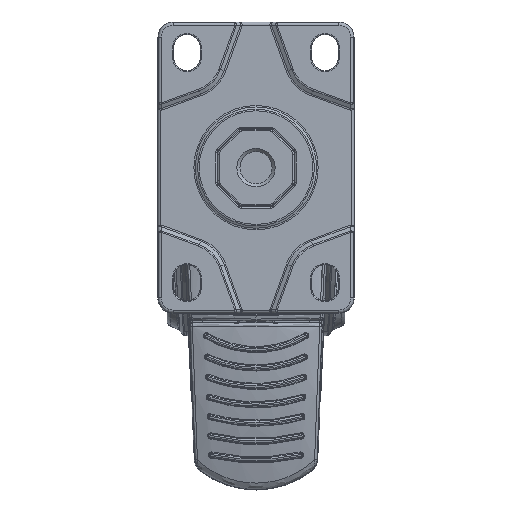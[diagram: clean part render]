
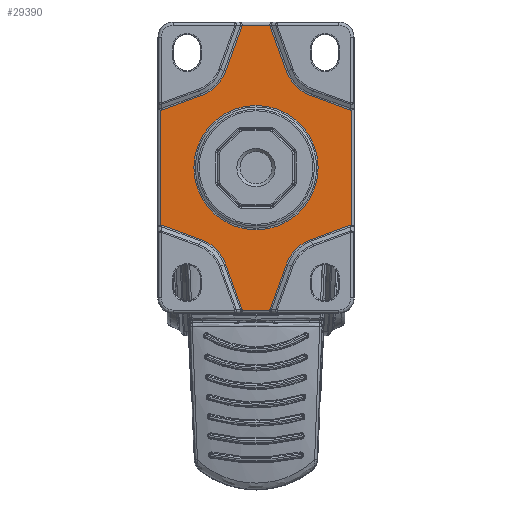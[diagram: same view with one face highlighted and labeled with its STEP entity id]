
A CAD part, top view. The second image highlights one B-rep face of the part: STEP entity #29390.
In plain terms, the highlighted planar face has unit normal (0, 0, 1).
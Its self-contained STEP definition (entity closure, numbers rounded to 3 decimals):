
#501=FACE_BOUND('',#6565,.T.);
#1093=LINE('',#70023,#2324);
#1094=LINE('',#70027,#2325);
#1095=LINE('',#70031,#2326);
#1096=LINE('',#70035,#2327);
#1097=LINE('',#70039,#2328);
#1098=LINE('',#70043,#2329);
#1099=LINE('',#70047,#2330);
#1100=LINE('',#70051,#2331);
#1101=LINE('',#70055,#2332);
#1102=LINE('',#70059,#2333);
#1103=LINE('',#70063,#2334);
#1104=LINE('',#70067,#2335);
#2324=VECTOR('',#35692,10.);
#2325=VECTOR('',#35695,10.);
#2326=VECTOR('',#35698,10.);
#2327=VECTOR('',#35701,10.);
#2328=VECTOR('',#35704,10.);
#2329=VECTOR('',#35707,10.);
#2330=VECTOR('',#35710,10.);
#2331=VECTOR('',#35713,10.);
#2332=VECTOR('',#35716,10.);
#2333=VECTOR('',#35719,10.);
#2334=VECTOR('',#35722,10.);
#2335=VECTOR('',#35725,10.);
#3158=PLANE('',#31592);
#3614=ELLIPSE('',#31593,4.217,2.);
#3615=ELLIPSE('',#31595,4.217,2.);
#3616=ELLIPSE('',#31596,4.217,2.);
#3617=ELLIPSE('',#31598,4.217,2.);
#3618=ELLIPSE('',#31599,4.217,2.);
#3619=ELLIPSE('',#31601,4.217,2.);
#3620=ELLIPSE('',#31602,4.217,2.);
#3621=ELLIPSE('',#31604,4.217,2.);
#4673=FACE_OUTER_BOUND('',#6564,.T.);
#6564=EDGE_LOOP('',(#22741,#22742,#22743,#22744,#22745,#22746,#22747,#22748,
#22749,#22750,#22751,#22752,#22753,#22754,#22755,#22756,#22757,#22758,#22759,
#22760,#22761,#22762,#22763,#22764));
#6565=EDGE_LOOP('',(#22765));
#8239=CIRCLE('',#31591,20.268);
#8240=CIRCLE('',#31594,13.382);
#8241=CIRCLE('',#31597,13.382);
#8242=CIRCLE('',#31600,13.382);
#8243=CIRCLE('',#31603,13.382);
#12277=VERTEX_POINT('',#70017);
#12278=VERTEX_POINT('',#70021);
#12279=VERTEX_POINT('',#70022);
#12280=VERTEX_POINT('',#70024);
#12281=VERTEX_POINT('',#70026);
#12282=VERTEX_POINT('',#70028);
#12283=VERTEX_POINT('',#70030);
#12284=VERTEX_POINT('',#70032);
#12285=VERTEX_POINT('',#70034);
#12286=VERTEX_POINT('',#70036);
#12287=VERTEX_POINT('',#70038);
#12288=VERTEX_POINT('',#70040);
#12289=VERTEX_POINT('',#70042);
#12290=VERTEX_POINT('',#70044);
#12291=VERTEX_POINT('',#70046);
#12292=VERTEX_POINT('',#70048);
#12293=VERTEX_POINT('',#70050);
#12294=VERTEX_POINT('',#70052);
#12295=VERTEX_POINT('',#70054);
#12296=VERTEX_POINT('',#70056);
#12297=VERTEX_POINT('',#70058);
#12298=VERTEX_POINT('',#70060);
#12299=VERTEX_POINT('',#70062);
#12300=VERTEX_POINT('',#70064);
#12301=VERTEX_POINT('',#70066);
#15990=EDGE_CURVE('',#12277,#12277,#8239,.T.);
#15991=EDGE_CURVE('',#12278,#12279,#1093,.T.);
#15992=EDGE_CURVE('',#12280,#12278,#3614,.T.);
#15993=EDGE_CURVE('',#12281,#12280,#1094,.T.);
#15994=EDGE_CURVE('',#12282,#12281,#8240,.T.);
#15995=EDGE_CURVE('',#12283,#12282,#1095,.T.);
#15996=EDGE_CURVE('',#12284,#12283,#3615,.T.);
#15997=EDGE_CURVE('',#12285,#12284,#1096,.T.);
#15998=EDGE_CURVE('',#12286,#12285,#3616,.T.);
#15999=EDGE_CURVE('',#12287,#12286,#1097,.T.);
#16000=EDGE_CURVE('',#12288,#12287,#8241,.T.);
#16001=EDGE_CURVE('',#12289,#12288,#1098,.T.);
#16002=EDGE_CURVE('',#12290,#12289,#3617,.T.);
#16003=EDGE_CURVE('',#12291,#12290,#1099,.T.);
#16004=EDGE_CURVE('',#12291,#12292,#3618,.T.);
#16005=EDGE_CURVE('',#12292,#12293,#1100,.T.);
#16006=EDGE_CURVE('',#12293,#12294,#8242,.T.);
#16007=EDGE_CURVE('',#12294,#12295,#1101,.T.);
#16008=EDGE_CURVE('',#12295,#12296,#3619,.T.);
#16009=EDGE_CURVE('',#12296,#12297,#1102,.T.);
#16010=EDGE_CURVE('',#12297,#12298,#3620,.T.);
#16011=EDGE_CURVE('',#12298,#12299,#1103,.T.);
#16012=EDGE_CURVE('',#12299,#12300,#8243,.T.);
#16013=EDGE_CURVE('',#12300,#12301,#1104,.T.);
#16014=EDGE_CURVE('',#12301,#12279,#3621,.T.);
#22741=ORIENTED_EDGE('',*,*,#15991,.F.);
#22742=ORIENTED_EDGE('',*,*,#15992,.F.);
#22743=ORIENTED_EDGE('',*,*,#15993,.F.);
#22744=ORIENTED_EDGE('',*,*,#15994,.F.);
#22745=ORIENTED_EDGE('',*,*,#15995,.F.);
#22746=ORIENTED_EDGE('',*,*,#15996,.F.);
#22747=ORIENTED_EDGE('',*,*,#15997,.F.);
#22748=ORIENTED_EDGE('',*,*,#15998,.F.);
#22749=ORIENTED_EDGE('',*,*,#15999,.F.);
#22750=ORIENTED_EDGE('',*,*,#16000,.F.);
#22751=ORIENTED_EDGE('',*,*,#16001,.F.);
#22752=ORIENTED_EDGE('',*,*,#16002,.F.);
#22753=ORIENTED_EDGE('',*,*,#16003,.F.);
#22754=ORIENTED_EDGE('',*,*,#16004,.T.);
#22755=ORIENTED_EDGE('',*,*,#16005,.T.);
#22756=ORIENTED_EDGE('',*,*,#16006,.T.);
#22757=ORIENTED_EDGE('',*,*,#16007,.T.);
#22758=ORIENTED_EDGE('',*,*,#16008,.T.);
#22759=ORIENTED_EDGE('',*,*,#16009,.T.);
#22760=ORIENTED_EDGE('',*,*,#16010,.T.);
#22761=ORIENTED_EDGE('',*,*,#16011,.T.);
#22762=ORIENTED_EDGE('',*,*,#16012,.T.);
#22763=ORIENTED_EDGE('',*,*,#16013,.T.);
#22764=ORIENTED_EDGE('',*,*,#16014,.T.);
#22765=ORIENTED_EDGE('',*,*,#15990,.F.);
#29390=ADVANCED_FACE('',(#4673,#501),#3158,.F.);
#31591=AXIS2_PLACEMENT_3D('',#70019,#35688,#35689);
#31592=AXIS2_PLACEMENT_3D('',#70020,#35690,#35691);
#31593=AXIS2_PLACEMENT_3D('',#70025,#35693,#35694);
#31594=AXIS2_PLACEMENT_3D('',#70029,#35696,#35697);
#31595=AXIS2_PLACEMENT_3D('',#70033,#35699,#35700);
#31596=AXIS2_PLACEMENT_3D('',#70037,#35702,#35703);
#31597=AXIS2_PLACEMENT_3D('',#70041,#35705,#35706);
#31598=AXIS2_PLACEMENT_3D('',#70045,#35708,#35709);
#31599=AXIS2_PLACEMENT_3D('',#70049,#35711,#35712);
#31600=AXIS2_PLACEMENT_3D('',#70053,#35714,#35715);
#31601=AXIS2_PLACEMENT_3D('',#70057,#35717,#35718);
#31602=AXIS2_PLACEMENT_3D('',#70061,#35720,#35721);
#31603=AXIS2_PLACEMENT_3D('',#70065,#35723,#35724);
#31604=AXIS2_PLACEMENT_3D('',#70068,#35726,#35727);
#35688=DIRECTION('center_axis',(0.,0.,1.));
#35689=DIRECTION('ref_axis',(0.,1.,0.));
#35690=DIRECTION('center_axis',(0.,0.,-1.));
#35691=DIRECTION('ref_axis',(0.,1.,0.));
#35692=DIRECTION('',(-1.,0.,0.));
#35693=DIRECTION('center_axis',(0.,0.,1.));
#35694=DIRECTION('ref_axis',(-1.,-0.019,0.));
#35695=DIRECTION('',(-0.342,-0.94,0.));
#35696=DIRECTION('center_axis',(0.,0.,1.));
#35697=DIRECTION('ref_axis',(-0.707,0.707,0.));
#35698=DIRECTION('',(-0.94,-0.342,0.));
#35699=DIRECTION('center_axis',(0.,0.,1.));
#35700=DIRECTION('ref_axis',(0.019,1.,0.));
#35701=DIRECTION('',(0.,-1.,0.));
#35702=DIRECTION('center_axis',(0.,0.,1.));
#35703=DIRECTION('ref_axis',(0.019,-1.,0.));
#35704=DIRECTION('',(0.94,-0.342,0.));
#35705=DIRECTION('center_axis',(0.,0.,1.));
#35706=DIRECTION('ref_axis',(-0.707,-0.707,0.));
#35707=DIRECTION('',(0.342,-0.94,0.));
#35708=DIRECTION('center_axis',(0.,0.,1.));
#35709=DIRECTION('ref_axis',(-1.,0.019,0.));
#35710=DIRECTION('',(1.,0.,0.));
#35711=DIRECTION('center_axis',(0.,0.,-1.));
#35712=DIRECTION('ref_axis',(1.,0.019,0.));
#35713=DIRECTION('',(-0.342,-0.94,0.));
#35714=DIRECTION('center_axis',(0.,0.,-1.));
#35715=DIRECTION('ref_axis',(0.707,-0.707,0.));
#35716=DIRECTION('',(-0.94,-0.342,0.));
#35717=DIRECTION('center_axis',(0.,0.,-1.));
#35718=DIRECTION('ref_axis',(-0.019,-1.,0.));
#35719=DIRECTION('',(0.,-1.,0.));
#35720=DIRECTION('center_axis',(0.,0.,-1.));
#35721=DIRECTION('ref_axis',(-0.019,1.,0.));
#35722=DIRECTION('',(0.94,-0.342,0.));
#35723=DIRECTION('center_axis',(0.,0.,-1.));
#35724=DIRECTION('ref_axis',(0.707,0.707,0.));
#35725=DIRECTION('',(0.342,-0.94,0.));
#35726=DIRECTION('center_axis',(0.,0.,-1.));
#35727=DIRECTION('ref_axis',(1.,-0.019,0.));
#70017=CARTESIAN_POINT('',(0.,-20.268,0.));
#70019=CARTESIAN_POINT('Origin',(0.,0.,0.));
#70020=CARTESIAN_POINT('Origin',(0.,0.,0.));
#70021=CARTESIAN_POINT('',(4.517,-46.464,0.));
#70022=CARTESIAN_POINT('',(-4.517,-46.464,0.));
#70023=CARTESIAN_POINT('',(16.,-46.464,0.));
#70024=CARTESIAN_POINT('',(4.579,-46.111,0.));
#70025=CARTESIAN_POINT('Origin',(8.734,-46.392,0.));
#70026=CARTESIAN_POINT('',(9.925,-31.423,0.));
#70027=CARTESIAN_POINT('',(11.595,-26.835,0.));
#70028=CARTESIAN_POINT('',(17.923,-23.425,0.));
#70029=CARTESIAN_POINT('Origin',(22.5,-36.,0.));
#70030=CARTESIAN_POINT('',(30.611,-18.807,0.));
#70031=CARTESIAN_POINT('',(13.774,-24.935,0.));
#70032=CARTESIAN_POINT('',(30.964,-18.745,0.));
#70033=CARTESIAN_POINT('Origin',(30.892,-22.962,0.));
#70034=CARTESIAN_POINT('',(30.964,18.745,0.));
#70035=CARTESIAN_POINT('',(30.964,23.75,0.));
#70036=CARTESIAN_POINT('',(30.611,18.807,0.));
#70037=CARTESIAN_POINT('Origin',(30.892,22.962,0.));
#70038=CARTESIAN_POINT('',(17.923,23.425,0.));
#70039=CARTESIAN_POINT('',(13.774,24.935,0.));
#70040=CARTESIAN_POINT('',(9.925,31.423,0.));
#70041=CARTESIAN_POINT('Origin',(22.5,36.,0.));
#70042=CARTESIAN_POINT('',(4.579,46.111,0.));
#70043=CARTESIAN_POINT('',(11.595,26.835,0.));
#70044=CARTESIAN_POINT('',(4.517,46.464,0.));
#70045=CARTESIAN_POINT('Origin',(8.734,46.392,0.));
#70046=CARTESIAN_POINT('',(-4.517,46.464,0.));
#70047=CARTESIAN_POINT('',(-16.,46.464,0.));
#70048=CARTESIAN_POINT('',(-4.579,46.111,0.));
#70049=CARTESIAN_POINT('Origin',(-8.734,46.392,0.));
#70050=CARTESIAN_POINT('',(-9.925,31.423,0.));
#70051=CARTESIAN_POINT('',(-11.595,26.835,0.));
#70052=CARTESIAN_POINT('',(-17.923,23.425,0.));
#70053=CARTESIAN_POINT('Origin',(-22.5,36.,0.));
#70054=CARTESIAN_POINT('',(-30.611,18.807,0.));
#70055=CARTESIAN_POINT('',(-13.774,24.935,0.));
#70056=CARTESIAN_POINT('',(-30.964,18.745,0.));
#70057=CARTESIAN_POINT('Origin',(-30.892,22.962,0.));
#70058=CARTESIAN_POINT('',(-30.964,-18.745,0.));
#70059=CARTESIAN_POINT('',(-30.964,23.75,0.));
#70060=CARTESIAN_POINT('',(-30.611,-18.807,0.));
#70061=CARTESIAN_POINT('Origin',(-30.892,-22.962,0.));
#70062=CARTESIAN_POINT('',(-17.923,-23.425,0.));
#70063=CARTESIAN_POINT('',(-13.774,-24.935,0.));
#70064=CARTESIAN_POINT('',(-9.925,-31.423,0.));
#70065=CARTESIAN_POINT('Origin',(-22.5,-36.,0.));
#70066=CARTESIAN_POINT('',(-4.579,-46.111,0.));
#70067=CARTESIAN_POINT('',(-11.595,-26.835,0.));
#70068=CARTESIAN_POINT('Origin',(-8.734,-46.392,0.));
